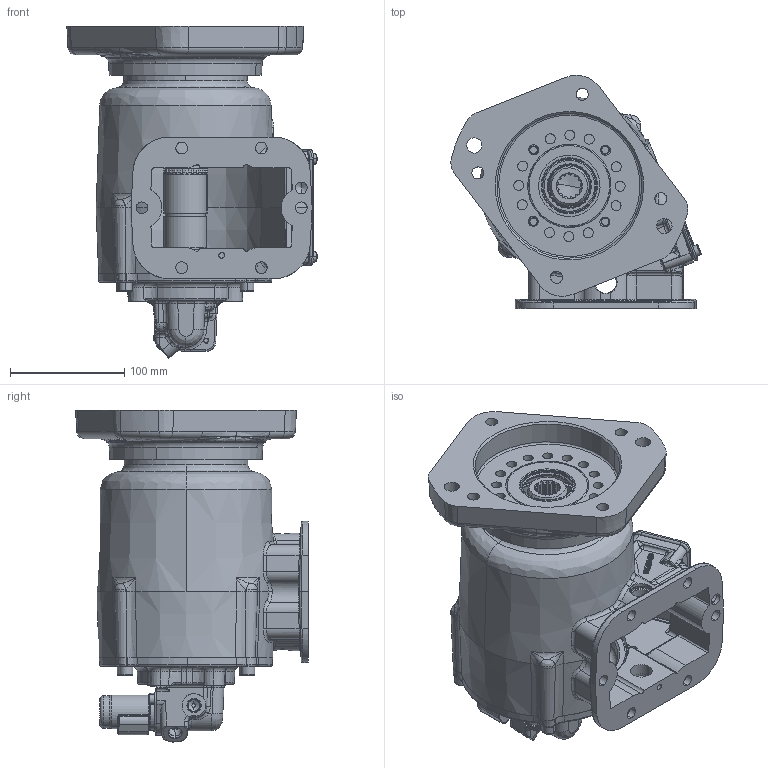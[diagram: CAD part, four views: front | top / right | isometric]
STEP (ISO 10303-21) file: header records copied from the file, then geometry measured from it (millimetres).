
FILE_DESCRIPTION (( 'STEP AP203' ), '1' );
FILE_NAME ('CS6B-XXXXX-S3EX.STEP', '2023-05-24T12:56:11', ( '' ), ( '' ), 'SwSTEP 2.0', 'SolidWorks 2021', '' );
FILE_SCHEMA (( 'CONFIG_CONTROL_DESIGN' ));
Length unit declared in the file: inch
Products named in the file (18): 14TA5380_Config1; 24T36894; 19T36174; 16T41119; CS6_8 OUTPUT SHAFTS_06T37090; CS6B-XXXXX-S3EX; 11T36124-1; 19T40859; 25T21684; 19T41118; 35T40860-2; 19T35237; 15T41597; 14T38719; 12T34003; 01T37072-01; 11T37795; 12T36471
Assembly tree (29 placements, depth 3):
  CS6B-XXXXX-S3EX
    01T37072-01
    16T41119
    12T34003
    25T21684  x2
    19T41118  x4
    19T36174  x4
    CS6_8 OUTPUT SHAFTS_06T37090
    11T36124-1
    24T36894
    12T36471  x2
    15T41597
    35T40860-2
    19T35237  x4
    19T40859  x2
    14TA5380_Config1
      14T38719
      11T37795
Bounding box: 219.42 x 204.12 x 291.06 mm (x, y, z)
Volume: 1811503.6 mm3; surface area: 486428.8 mm2
Topology: 29 solids, 30 shells, 3140 faces, 7907 edges, 4896 vertices
Faces by surface type: bspline 1017, plane 797, cylinder 760, cone 354, torus 195, sphere 17
Entity records: 175175 total; most frequent: CARTESIAN_POINT 110939, ORIENTED_EDGE 14528, DIRECTION 10217, EDGE_CURVE 7264, VERTEX_POINT 4561, AXIS2_PLACEMENT_3D 3858, EDGE_LOOP 3163, FACE_OUTER_BOUND 2883
